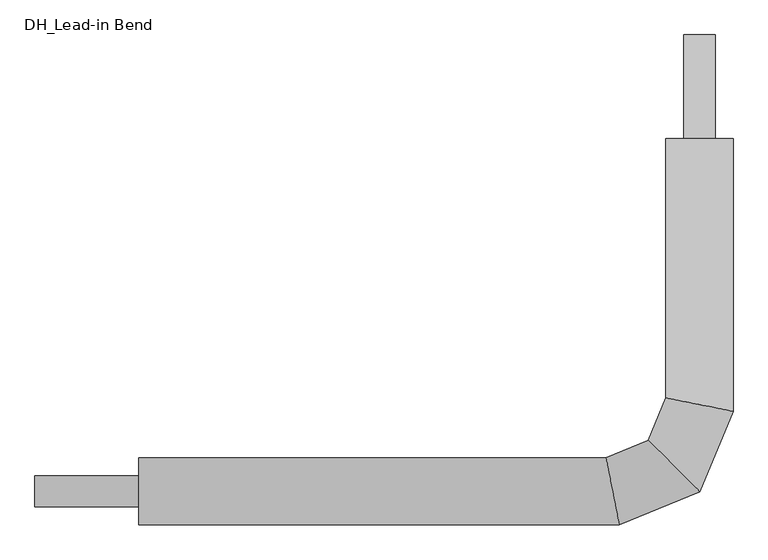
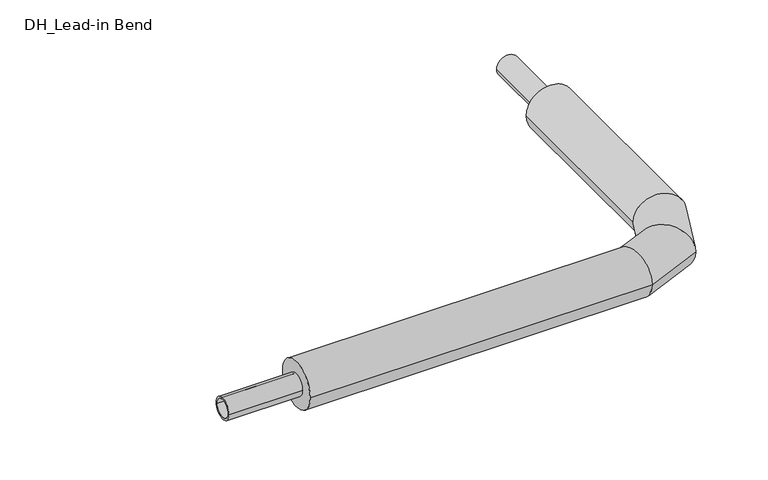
"""IFC4 building model written with IfcOpenShell, lengths in millimetres: pipe fitting geometry, DH_Lead-in Bend : RVT/RVX/RTX UNO 11 Heating."""

from ifc_helpers import new_model, si_unit, point, frame, origin, origin_2d, place, context, project, spatial, circle_curve, ellipse_curve, trimmed, segment, composite_curve, outline, extrude, source, transform, mapped, element, save
from ifc_brep_helpers import plane_surface, cylinder_surface, advanced_brep


def dh_lead_in_bend_a80b687c(model_context):
    return source(origin(), model_context, "Body", "SolidModel", [
        advanced_brep(
        [(-1350.0, -81.0, 0.0), (-1350.0, 81.0, 0.0), (-193.0880982, -81.0, 0.0), (-225.3119018, 81.0, 0.0), (81.0, 850.0, 0.0), (-81.0, 850.0, 0.0), (-81.0, 225.3119018, 0.0), (81.0, 193.0880982, 0.0), (0.7214547, -0.7214547, 0.0), (-123.2679774, 123.2679774, 0.0)],
        [
            (0, 1, circle_curve(frame((-1350.0, 0.0, 0.0), z_axis=(-1.0, 0.0, 0.0), x_axis=(0.0, 1.0, 0.0)), 81.0)),
            (1, 0, circle_curve(frame((-1350.0, 0.0, 0.0), z_axis=(-1.0, 0.0, 0.0), x_axis=(0.0, 1.0, 0.0)), 81.0)),
            (0, 2),
            (2, 3, ellipse_curve(frame((-209.2, 0.0, 0.0), z_axis=(-0.9807852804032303, -0.19509032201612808, 0.0), x_axis=(-0.19509032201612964, 0.9807852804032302, 0.0)), 82.5868838, 81.0)),
            (3, 1),
            (3, 2, ellipse_curve(frame((-209.2, 0.0, 0.0), z_axis=(-0.9807852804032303, -0.19509032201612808, 0.0), x_axis=(-0.19509032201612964, 0.9807852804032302, 0.0)), 82.5868838, 81.0)),
            (4, 5, circle_curve(frame((0.0, 850.0, 0.0), z_axis=(0.0, 1.0, 0.0), x_axis=(-1.0, 0.0, 0.0)), 81.0)),
            (5, 4, circle_curve(frame((0.0, 850.0, 0.0), z_axis=(0.0, 1.0, 0.0), x_axis=(-1.0, 0.0, 0.0)), 81.0)),
            (6, 7, ellipse_curve(frame((0.0, 209.2, 0.0), z_axis=(0.19509032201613, 0.9807852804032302, 0.0), x_axis=(0.9807852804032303, -0.19509032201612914, 0.0)), 82.5868838, 81.0)),
            (7, 4),
            (5, 6),
            (7, 6, ellipse_curve(frame((0.0, 209.2, 0.0), z_axis=(0.19509032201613, 0.9807852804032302, 0.0), x_axis=(0.9807852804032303, -0.19509032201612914, 0.0)), 82.5868838, 81.0)),
            (2, 8),
            (8, 9, ellipse_curve(frame((-61.2732614, 61.2732614, 0.0), z_axis=(-0.7071067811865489, -0.707106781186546, 0.0), x_axis=(-0.7071067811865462, 0.7071067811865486, 0.0)), 87.6737682, 81.0)),
            (9, 3),
            (9, 8, ellipse_curve(frame((-61.2732614, 61.2732614, 0.0), z_axis=(-0.7071067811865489, -0.707106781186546, 0.0), x_axis=(-0.7071067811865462, 0.7071067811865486, 0.0)), 87.6737682, 81.0)),
            (8, 7),
            (6, 9),
        ],
        [
            plane_surface(frame((-1350.0, 0.0, 0.0), z_axis=(-1.0, 0.0, 0.0), x_axis=(0.0, 0.0, 1.0))),
            cylinder_surface(frame((-1350.0, 0.0, 0.0), z_axis=(-1.0, 0.0, 0.0), x_axis=(0.0, 1.0, 0.0)), 81.0),
            plane_surface(frame((0.0, 850.0, 0.0), z_axis=(0.0, 1.0, 0.0), x_axis=(0.0, 0.0, 1.0))),
            cylinder_surface(frame((0.0, 209.2, 0.0), z_axis=(0.0, -1.0, 0.0), x_axis=(-1.0, 0.0, 0.0)), 81.0),
            cylinder_surface(frame((-209.2, 0.0, 0.0), z_axis=(-0.9238795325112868, -0.3826834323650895, 0.0), x_axis=(-0.3826834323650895, 0.9238795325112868, 0.0)), 81.0),
            cylinder_surface(frame((-61.2732614, 61.2732614, 0.0), z_axis=(-0.38268343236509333, -0.9238795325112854, 0.0), x_axis=(-0.9238795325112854, 0.38268343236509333, 0.0)), 81.0),
        ],
        [
            (0, [[1, 2]]),
            (1, [[-1, 3, 4, 5]]),
            (1, [[-2, -5, 6, -3]]),
            (2, [[7, 8]]),
            (3, [[9, 10, -8, 11]]),
            (3, [[12, -11, -7, -10]]),
            (4, [[-4, 13, 14, 15]]),
            (4, [[-6, -15, 16, -13]]),
            (5, [[-14, 17, -9, 18]]),
            (5, [[-16, -18, -12, -17]]),
        ],
    ),
        extrude(outline(composite_curve([segment(trimmed(circle_curve(origin_2d(), 37.5), [point((-37.5, 0.0))], [point((37.5, 0.0))], False, "CARTESIAN"), True, "CONTINUOUS"), segment(trimmed(circle_curve(origin_2d(), 37.5), [point((37.5, 0.0))], [point((-37.5, 0.0))], False, "CARTESIAN"), True, "CONTINUOUS")], self_intersect=False), holes=[composite_curve([segment(trimmed(circle_curve(origin_2d(), 30.7), [point((-30.7, 0.0))], [point((30.7, 0.0))], True, "CARTESIAN"), True, "CONTINUOUS"), segment(trimmed(circle_curve(origin_2d(), 30.7), [point((30.7, 0.0))], [point((-30.7, 0.0))], True, "CARTESIAN"), True, "CONTINUOUS")], self_intersect=False)]), frame((-1600.0, 0.0, 0.0), z_axis=(1.0, 0.0, 0.0), x_axis=(0.0, 1.0, 0.0)), (0.0, 0.0, 1.0), 250.0),
        extrude(outline(composite_curve([segment(trimmed(circle_curve(origin_2d(), 37.5), [point((0.0, 37.5))], [point((0.0, -37.5))], False, "CARTESIAN"), True, "CONTINUOUS"), segment(trimmed(circle_curve(origin_2d(), 37.5), [point((0.0, -37.5))], [point((0.0, 37.5))], False, "CARTESIAN"), True, "CONTINUOUS")], self_intersect=False), holes=[composite_curve([segment(trimmed(circle_curve(origin_2d(), 30.7), [point((0.0, 30.7))], [point((0.0, -30.7))], True, "CARTESIAN"), True, "CONTINUOUS"), segment(trimmed(circle_curve(origin_2d(), 30.7), [point((0.0, -30.7))], [point((0.0, 30.7))], True, "CARTESIAN"), True, "CONTINUOUS")], self_intersect=False)]), frame((0.0, 850.0, 0.0), z_axis=(0.0, 1.0, 0.0), x_axis=(0.0, 0.0, 1.0)), (0.0, 0.0, 1.0), 250.0),
    ])


if __name__ == "__main__":
    model = new_model("IFC4")
    model_context = context("Model", 3, world=origin())
    ifc_project = project(units=[si_unit("LENGTHUNIT", "METRE", prefix="MILLI")], contexts=[model_context])
    site = spatial("IfcSite", under=ifc_project)
    building = spatial("IfcBuilding", under=site)
    placement = place(None, origin())
    dh_lead_in_bend_shape = dh_lead_in_bend_a80b687c(model_context)
    element("IfcPipeFitting", 1, ObjectType="DH_Lead-in Bend : RVT/RVX/RTX UNO 11 Heating", at=placement, inside=building, context=model_context, shape_type="MappedRepresentation", body=[
        mapped(dh_lead_in_bend_shape, transform((0.0, 0.0, 0.0), x_axis=(1.0, 0.0, 0.0), y_axis=(0.0, 1.0, 0.0), z_axis=(0.0, 0.0, 1.0))),
    ])
    save(model, "model.ifc")
